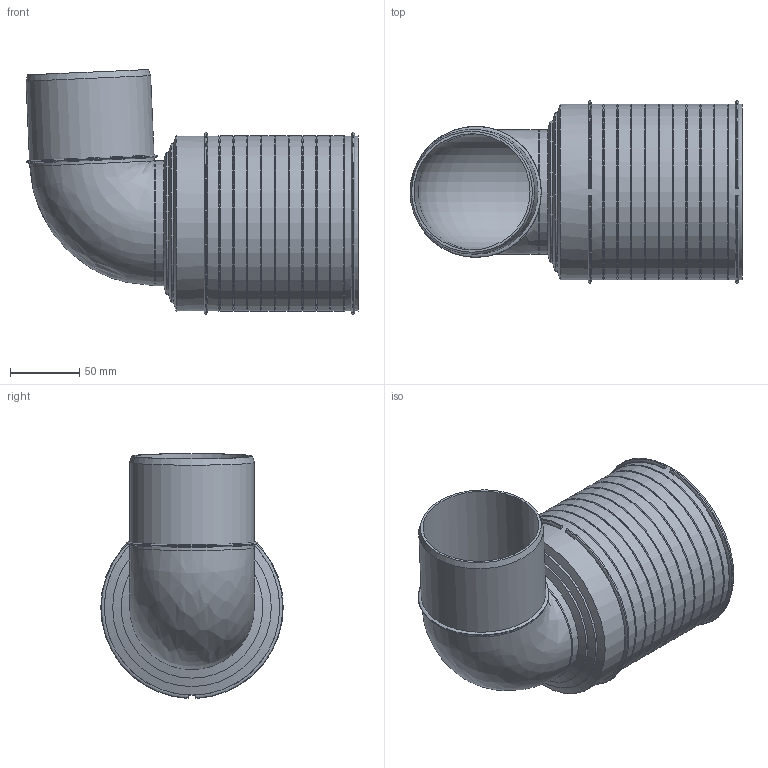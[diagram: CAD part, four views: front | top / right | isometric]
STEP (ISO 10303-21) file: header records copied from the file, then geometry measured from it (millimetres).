
FILE_DESCRIPTION(/* description */ (''),/* implementation_level */ '2;1');
FILE_NAME(/* name */ 'Z:\Geberit\Export\NewStep\390493.stp',/* time_stamp */ '2014-04-02T08:13:40+02:00',/* author */ ('nelson'),/* organization */ (''),/* preprocessor_version */ 'ST-DEVELOPER v15.2',/* originating_system */ 'Autodesk Inventor 2014',/* authorisation */ '');
FILE_SCHEMA (('AUTOMOTIVE_DESIGN { 1 0 10303 214 3 1 1 }'));
Length unit declared in the file: millimetre
Products named in the file (3): 861397Muffe; 861315w; 390493
Bounding box: 240.14 x 132 x 177.14 mm (x, y, z)
Volume: 322665.3 mm3; surface area: 203196.9 mm2
Topology: 2 solids, 2 shells, 75 faces, 163 edges, 92 vertices
Faces by surface type: cone 25, cylinder 21, torus 16, plane 12, bspline 1
Full cylindrical faces by diameter (mm): 84 x3, 90.2 x4, 102.467 x1, 114.733 x1, 120.3 x1, 127 x11
Entity records: 1934 total; most frequent: DIRECTION 356, CARTESIAN_POINT 349, ORIENTED_EDGE 206, AXIS2_PLACEMENT_3D 174, EDGE_LOOP 133, EDGE_CURVE 103, CIRCLE 95, VERTEX_POINT 86
